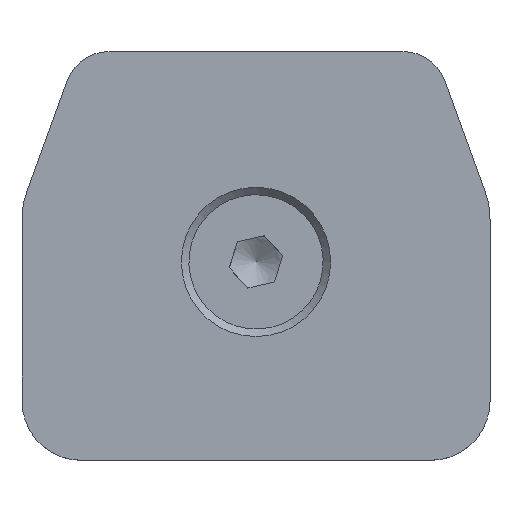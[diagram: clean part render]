
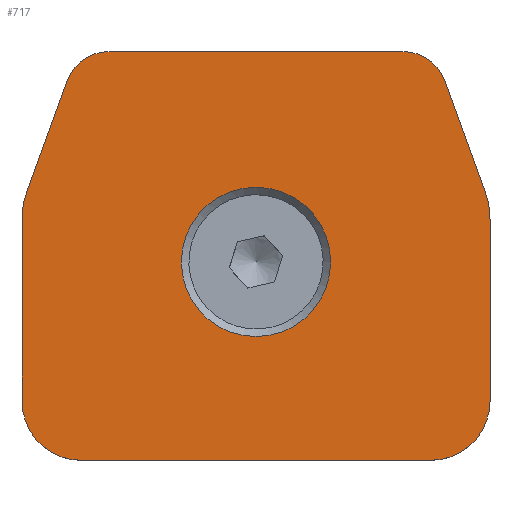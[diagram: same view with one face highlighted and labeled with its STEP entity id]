
A CAD part, top view. The second image highlights one B-rep face of the part: STEP entity #717.
In plain terms, the highlighted planar face has unit normal (0, 0, 1).
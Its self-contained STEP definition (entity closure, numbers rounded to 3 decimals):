
#50=FACE_BOUND('',#178,.T.);
#63=CIRCLE('',#756,6.3);
#65=CIRCLE('',#759,5.);
#67=CIRCLE('',#763,6.75);
#69=CIRCLE('',#767,3.75);
#71=CIRCLE('',#771,3.75);
#73=CIRCLE('',#775,6.75);
#75=CIRCLE('',#779,5.);
#132=FACE_OUTER_BOUND('',#177,.T.);
#177=EDGE_LOOP('',(#583,#584,#585,#586,#587,#588,#589,#590,#591,#592,#593,
#594));
#178=EDGE_LOOP('',(#595));
#237=LINE('',#1115,#295);
#241=LINE('',#1127,#299);
#245=LINE('',#1139,#303);
#249=LINE('',#1151,#307);
#253=LINE('',#1163,#311);
#257=LINE('',#1174,#315);
#295=VECTOR('',#884,15.343);
#299=VECTOR('',#896,9.983);
#303=VECTOR('',#908,24.81);
#307=VECTOR('',#920,9.983);
#311=VECTOR('',#932,15.343);
#315=VECTOR('',#944,29.5);
#345=VERTEX_POINT('',#1100);
#347=VERTEX_POINT('',#1105);
#348=VERTEX_POINT('',#1106);
#351=VERTEX_POINT('',#1114);
#353=VERTEX_POINT('',#1120);
#355=VERTEX_POINT('',#1126);
#357=VERTEX_POINT('',#1132);
#359=VERTEX_POINT('',#1138);
#361=VERTEX_POINT('',#1144);
#363=VERTEX_POINT('',#1150);
#365=VERTEX_POINT('',#1156);
#367=VERTEX_POINT('',#1162);
#369=VERTEX_POINT('',#1168);
#418=EDGE_CURVE('',#345,#345,#63,.T.);
#420=EDGE_CURVE('',#347,#348,#65,.T.);
#424=EDGE_CURVE('',#348,#351,#237,.T.);
#427=EDGE_CURVE('',#351,#353,#67,.T.);
#430=EDGE_CURVE('',#353,#355,#241,.T.);
#433=EDGE_CURVE('',#355,#357,#69,.T.);
#436=EDGE_CURVE('',#357,#359,#245,.T.);
#439=EDGE_CURVE('',#359,#361,#71,.T.);
#442=EDGE_CURVE('',#361,#363,#249,.T.);
#445=EDGE_CURVE('',#363,#365,#73,.T.);
#448=EDGE_CURVE('',#365,#367,#253,.T.);
#451=EDGE_CURVE('',#367,#369,#75,.T.);
#454=EDGE_CURVE('',#369,#347,#257,.T.);
#583=ORIENTED_EDGE('',*,*,#420,.F.);
#584=ORIENTED_EDGE('',*,*,#454,.F.);
#585=ORIENTED_EDGE('',*,*,#451,.F.);
#586=ORIENTED_EDGE('',*,*,#448,.F.);
#587=ORIENTED_EDGE('',*,*,#445,.F.);
#588=ORIENTED_EDGE('',*,*,#442,.F.);
#589=ORIENTED_EDGE('',*,*,#439,.F.);
#590=ORIENTED_EDGE('',*,*,#436,.F.);
#591=ORIENTED_EDGE('',*,*,#433,.F.);
#592=ORIENTED_EDGE('',*,*,#430,.F.);
#593=ORIENTED_EDGE('',*,*,#427,.F.);
#594=ORIENTED_EDGE('',*,*,#424,.F.);
#595=ORIENTED_EDGE('',*,*,#418,.T.);
#682=PLANE('',#782);
#717=ADVANCED_FACE('',(#132,#50),#682,.T.);
#756=AXIS2_PLACEMENT_3D('',#1101,#870,#871);
#759=AXIS2_PLACEMENT_3D('',#1107,#876,#877);
#763=AXIS2_PLACEMENT_3D('',#1121,#889,#890);
#767=AXIS2_PLACEMENT_3D('',#1133,#901,#902);
#771=AXIS2_PLACEMENT_3D('',#1145,#913,#914);
#775=AXIS2_PLACEMENT_3D('',#1157,#925,#926);
#779=AXIS2_PLACEMENT_3D('',#1169,#937,#938);
#782=AXIS2_PLACEMENT_3D('',#1176,#946,#947);
#870=DIRECTION('center_axis',(0.,0.,-1.));
#871=DIRECTION('ref_axis',(1.,0.,0.));
#876=DIRECTION('center_axis',(0.,0.,-1.));
#877=DIRECTION('ref_axis',(-1.,0.,0.));
#884=DIRECTION('',(0.,-1.,0.));
#889=DIRECTION('center_axis',(0.,0.,-1.));
#890=DIRECTION('ref_axis',(-0.94,0.342,0.));
#896=DIRECTION('',(-0.342,-0.94,0.));
#901=DIRECTION('center_axis',(0.,0.,-1.));
#902=DIRECTION('ref_axis',(0.,1.,0.));
#908=DIRECTION('',(-1.,0.,0.));
#913=DIRECTION('center_axis',(0.,0.,-1.));
#914=DIRECTION('ref_axis',(0.94,0.342,0.));
#920=DIRECTION('',(-0.342,0.94,0.));
#925=DIRECTION('center_axis',(0.,0.,-1.));
#926=DIRECTION('ref_axis',(1.,0.,0.));
#932=DIRECTION('',(0.,1.,0.));
#937=DIRECTION('center_axis',(0.,0.,-1.));
#938=DIRECTION('ref_axis',(0.,-1.,0.));
#944=DIRECTION('',(1.,0.,0.));
#946=DIRECTION('center_axis',(0.,0.,1.));
#947=DIRECTION('ref_axis',(1.,0.,0.));
#1100=CARTESIAN_POINT('',(6.285,-0.2,3.));
#1101=CARTESIAN_POINT('Origin',(-0.015,-0.2,
3.));
#1105=CARTESIAN_POINT('',(14.735,16.55,3.));
#1106=CARTESIAN_POINT('',(19.735,11.55,3.));
#1107=CARTESIAN_POINT('Origin',(14.735,11.55,3.));
#1114=CARTESIAN_POINT('',(19.735,-3.794,3.));
#1115=CARTESIAN_POINT('',(19.735,11.55,3.));
#1120=CARTESIAN_POINT('',(19.328,-6.102,3.));
#1121=CARTESIAN_POINT('Origin',(12.985,-3.794,3.));
#1126=CARTESIAN_POINT('',(15.914,-15.483,3.));
#1127=CARTESIAN_POINT('',(19.328,-6.102,3.));
#1132=CARTESIAN_POINT('',(12.39,-17.95,3.));
#1133=CARTESIAN_POINT('Origin',(12.39,-14.2,3.));
#1138=CARTESIAN_POINT('',(-12.42,-17.95,3.));
#1139=CARTESIAN_POINT('',(12.39,-17.95,3.));
#1144=CARTESIAN_POINT('',(-15.943,-15.483,3.));
#1145=CARTESIAN_POINT('Origin',(-12.42,-14.2,3.));
#1150=CARTESIAN_POINT('',(-19.358,-6.102,3.));
#1151=CARTESIAN_POINT('',(-15.943,-15.483,3.));
#1156=CARTESIAN_POINT('',(-19.765,-3.794,3.));
#1157=CARTESIAN_POINT('Origin',(-13.015,-3.794,3.));
#1162=CARTESIAN_POINT('',(-19.765,11.55,3.));
#1163=CARTESIAN_POINT('',(-19.765,-3.794,3.));
#1168=CARTESIAN_POINT('',(-14.765,16.55,3.));
#1169=CARTESIAN_POINT('Origin',(-14.765,11.55,3.));
#1174=CARTESIAN_POINT('',(-14.765,16.55,3.));
#1176=CARTESIAN_POINT('Origin',(-0.015,-0.021,
3.));
